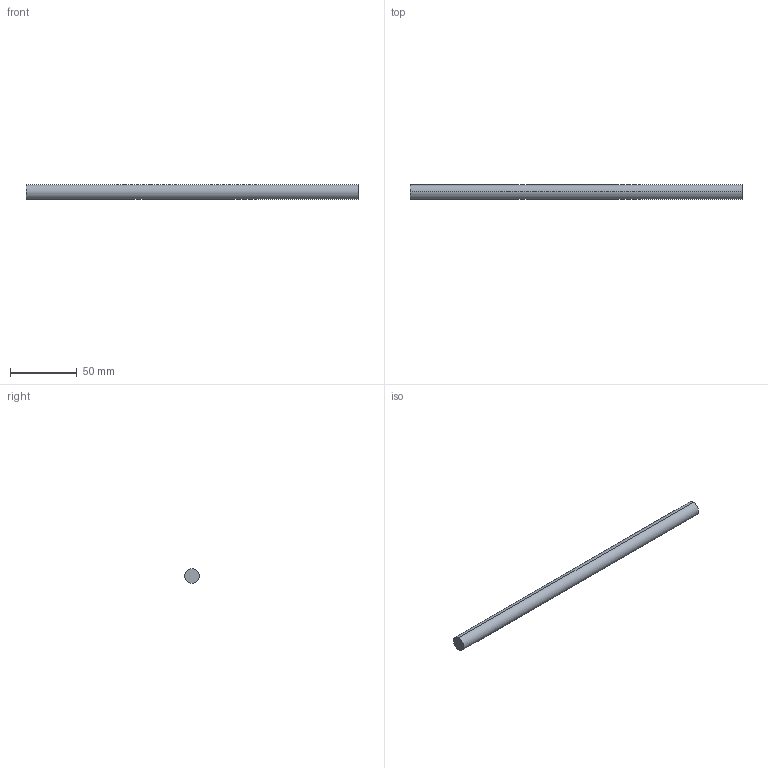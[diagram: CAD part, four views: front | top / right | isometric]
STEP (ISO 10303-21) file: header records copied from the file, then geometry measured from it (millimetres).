
FILE_DESCRIPTION (( 'STEP AP214' ), '1' );
FILE_NAME ('Querreling_2S-Rel_7102_KAB-350.step', '2010-09-22T15:05:49', ( 'grass' ), ( '' ), 'SwSTEP 2.0', 'SolidWorks 2010', '' );
FILE_SCHEMA (( 'AUTOMOTIVE_DESIGN' ));
Length unit declared in the file: millimetre
Products named in the file (1): Querreling_2S-Rel_7102_KAB-350
Bounding box: 249 x 11 x 11 mm (x, y, z)
Volume: 23663.3 mm3; surface area: 8794.9 mm2
Topology: 1 solids, 1 shells, 4 faces, 6 edges, 4 vertices
Faces by surface type: cylinder 2, plane 2
Entity records: 128 total; most frequent: DIRECTION 20, CARTESIAN_POINT 15, ORIENTED_EDGE 12, AXIS2_PLACEMENT_3D 9, EDGE_CURVE 6, VERTEX_POINT 4, EDGE_LOOP 4, FACE_OUTER_BOUND 4
